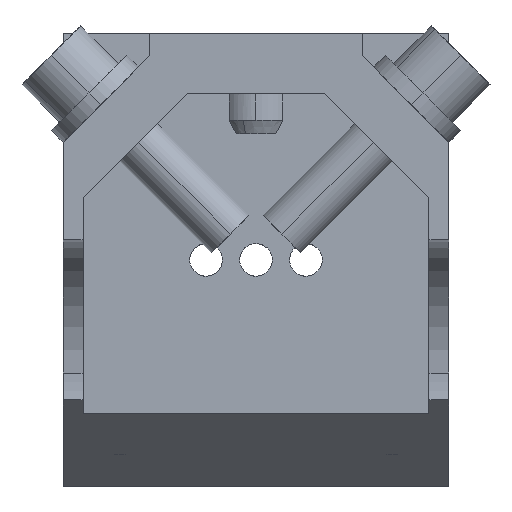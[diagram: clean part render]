
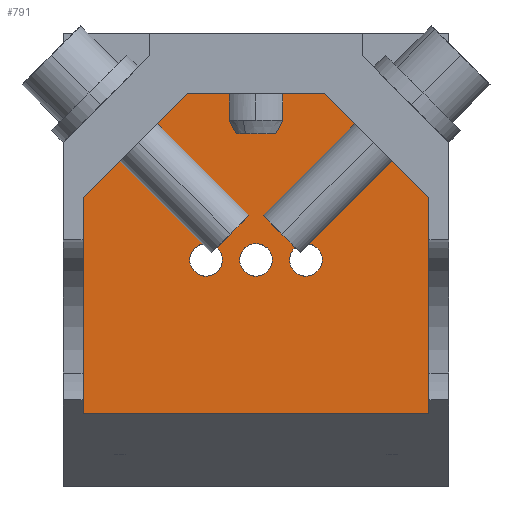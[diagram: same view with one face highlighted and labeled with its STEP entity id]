
A CAD part, left-side view. The second image highlights one B-rep face of the part: STEP entity #791.
In plain terms, the highlighted planar face has unit normal (-1, 0, 0).
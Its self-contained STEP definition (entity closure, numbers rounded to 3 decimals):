
#791=ADVANCED_FACE('Pocket.1',(#1907,#1908,#1909,#1910),#1911,.T.);
#1907=FACE_OUTER_BOUND('',#3453,.T.);
#1908=FACE_BOUND('',#3454,.T.);
#1909=FACE_BOUND('',#3455,.T.);
#1910=FACE_BOUND('',#3456,.T.);
#1911=PLANE('',#3457);
#3453=EDGE_LOOP('',(#5425,#5426,#5427,#5428,#5429,#5430));
#3454=EDGE_LOOP('',(#5431,#5432,#5433,#5434));
#3455=EDGE_LOOP('',(#5435,#5436,#5437,#5438));
#3456=EDGE_LOOP('',(#5439,#5440,#5441,#5442));
#3457=AXIS2_PLACEMENT_3D('',#5443,#5444,#5445);
#5425=ORIENTED_EDGE('',*,*,#9299,.T.);
#5426=ORIENTED_EDGE('',*,*,#9300,.T.);
#5427=ORIENTED_EDGE('',*,*,#9301,.T.);
#5428=ORIENTED_EDGE('',*,*,#9302,.T.);
#5429=ORIENTED_EDGE('',*,*,#9267,.T.);
#5430=ORIENTED_EDGE('',*,*,#9293,.T.);
#5431=ORIENTED_EDGE('',*,*,#8889,.F.);
#5432=ORIENTED_EDGE('',*,*,#8892,.F.);
#5433=ORIENTED_EDGE('',*,*,#9303,.F.);
#5434=ORIENTED_EDGE('',*,*,#9304,.F.);
#5435=ORIENTED_EDGE('',*,*,#9064,.F.);
#5436=ORIENTED_EDGE('',*,*,#9067,.F.);
#5437=ORIENTED_EDGE('',*,*,#9305,.F.);
#5438=ORIENTED_EDGE('',*,*,#9306,.F.);
#5439=ORIENTED_EDGE('',*,*,#9307,.F.);
#5440=ORIENTED_EDGE('',*,*,#9308,.F.);
#5441=ORIENTED_EDGE('',*,*,#9026,.F.);
#5442=ORIENTED_EDGE('',*,*,#9018,.F.);
#5443=CARTESIAN_POINT('',(18.0,0.0,0.0));
#5444=DIRECTION('',(-1.0,0.0,0.0));
#5445=DIRECTION('',(0.0,-1.0,0.0));
#8889=EDGE_CURVE('',#10553,#10547,#10555,.T.);
#8892=EDGE_CURVE('',#10557,#10553,#10560,.T.);
#9018=EDGE_CURVE('',#10748,#10751,#10752,.T.);
#9026=EDGE_CURVE('',#10751,#10760,#10765,.T.);
#9064=EDGE_CURVE('',#10822,#10816,#10824,.T.);
#9067=EDGE_CURVE('',#10826,#10822,#10829,.T.);
#9267=EDGE_CURVE('',#11134,#11139,#11141,.F.);
#9293=EDGE_CURVE('',#11139,#11179,#11181,.F.);
#9299=EDGE_CURVE('',#11179,#11189,#11190,.F.);
#9300=EDGE_CURVE('',#11189,#11191,#11192,.T.);
#9301=EDGE_CURVE('',#11191,#11193,#11194,.T.);
#9302=EDGE_CURVE('',#11193,#11134,#11195,.F.);
#9303=EDGE_CURVE('',#11196,#10557,#11197,.T.);
#9304=EDGE_CURVE('',#10547,#11196,#11198,.T.);
#9305=EDGE_CURVE('',#11199,#10826,#11200,.T.);
#9306=EDGE_CURVE('',#10816,#11199,#11201,.T.);
#9307=EDGE_CURVE('',#11202,#10748,#11203,.T.);
#9308=EDGE_CURVE('',#10760,#11202,#11204,.T.);
#10547=VERTEX_POINT('',#12959);
#10553=VERTEX_POINT('',#13000);
#10555=CIRCLE('',#13003,2.459);
#10557=VERTEX_POINT('',#13005);
#10560=CIRCLE('',#13009,2.459);
#10748=VERTEX_POINT('',#13446);
#10751=VERTEX_POINT('',#13450);
#10752=CIRCLE('',#13451,2.459);
#10760=VERTEX_POINT('',#13494);
#10765=CIRCLE('',#13534,2.459);
#10816=VERTEX_POINT('',#13665);
#10822=VERTEX_POINT('',#13706);
#10824=CIRCLE('',#13709,2.459);
#10826=VERTEX_POINT('',#13711);
#10829=CIRCLE('',#13715,2.459);
#11134=VERTEX_POINT('',#14598);
#11139=VERTEX_POINT('',#14605);
#11141=LINE('',#14608,#14609);
#11179=VERTEX_POINT('',#14662);
#11181=LINE('',#14665,#14666);
#11189=VERTEX_POINT('',#14674);
#11190=LINE('',#14675,#14676);
#11191=VERTEX_POINT('',#14677);
#11192=LINE('',#14678,#14679);
#11193=VERTEX_POINT('',#14680);
#11194=LINE('',#14681,#14682);
#11195=LINE('',#14683,#14684);
#11196=VERTEX_POINT('',#14685);
#11197=CIRCLE('',#14686,2.459);
#11198=CIRCLE('',#14687,2.459);
#11199=VERTEX_POINT('',#14688);
#11200=CIRCLE('',#14689,2.459);
#11201=CIRCLE('',#14690,2.459);
#11202=VERTEX_POINT('',#14691);
#11203=CIRCLE('',#14692,2.459);
#11204=CIRCLE('',#14693,2.459);
#12959=CARTESIAN_POINT('',(18.0,2.459,0.));
#13000=CARTESIAN_POINT('',(18.0,-2.158,1.179));
#13003=AXIS2_PLACEMENT_3D('',#17386,#17387,#17388);
#13005=CARTESIAN_POINT('',(18.0,-2.458,0.));
#13009=AXIS2_PLACEMENT_3D('',#17390,#17391,#17392);
#13446=CARTESIAN_POINT('',(18.0,-9.958,0.));
#13450=CARTESIAN_POINT('',(18.0,-9.658,1.179));
#13451=AXIS2_PLACEMENT_3D('',#17547,#17548,#17549);
#13494=CARTESIAN_POINT('',(18.0,-5.041,0.));
#13534=AXIS2_PLACEMENT_3D('',#17552,#17553,#17554);
#13665=CARTESIAN_POINT('',(18.0,9.959,0.));
#13706=CARTESIAN_POINT('',(18.0,5.342,1.179));
#13709=AXIS2_PLACEMENT_3D('',#17593,#17594,#17595);
#13711=CARTESIAN_POINT('',(18.0,5.042,0.));
#13715=AXIS2_PLACEMENT_3D('',#17597,#17598,#17599);
#14598=CARTESIAN_POINT('',(18.0,-10.355,25.0));
#14605=CARTESIAN_POINT('',(18.0,10.355,25.0));
#14608=CARTESIAN_POINT('',(18.0,0.,25.0));
#14609=VECTOR('',#17839,1.0);
#14662=CARTESIAN_POINT('',(18.0,26.0,9.355));
#14665=CARTESIAN_POINT('',(18.0,18.178,17.178));
#14666=VECTOR('',#17868,1.0);
#14674=CARTESIAN_POINT('',(18.0,26.0,-23.059));
#14675=CARTESIAN_POINT('',(18.0,26.0,-6.852));
#14676=VECTOR('',#17881,1.0);
#14677=CARTESIAN_POINT('',(18.0,-26.,-23.059));
#14678=CARTESIAN_POINT('',(18.0,0.,-23.059));
#14679=VECTOR('',#17882,1.0);
#14680=CARTESIAN_POINT('',(18.0,-26.,9.355));
#14681=CARTESIAN_POINT('',(18.0,-26.,-6.852));
#14682=VECTOR('',#17883,1.0);
#14683=CARTESIAN_POINT('',(18.0,-18.178,17.178));
#14684=VECTOR('',#17884,1.0);
#14685=CARTESIAN_POINT('',(18.0,2.158,-1.179));
#14686=AXIS2_PLACEMENT_3D('',#17885,#17886,#17887);
#14687=AXIS2_PLACEMENT_3D('',#17888,#17889,#17890);
#14688=CARTESIAN_POINT('',(18.0,9.658,-1.179));
#14689=AXIS2_PLACEMENT_3D('',#17891,#17892,#17893);
#14690=AXIS2_PLACEMENT_3D('',#17894,#17895,#17896);
#14691=CARTESIAN_POINT('',(18.0,-5.342,-1.179));
#14692=AXIS2_PLACEMENT_3D('',#17897,#17898,#17899);
#14693=AXIS2_PLACEMENT_3D('',#17900,#17901,#17902);
#17386=CARTESIAN_POINT('',(18.0,0.,0.));
#17387=DIRECTION('',(-1.0,0.0,0.0));
#17388=DIRECTION('',(0.0,-1.0,0.0));
#17390=CARTESIAN_POINT('',(18.0,0.,0.));
#17391=DIRECTION('',(-1.0,0.0,0.0));
#17392=DIRECTION('',(0.0,-1.0,0.0));
#17547=CARTESIAN_POINT('',(18.0,-7.5,0.));
#17548=DIRECTION('',(-1.0,0.0,0.0));
#17549=DIRECTION('',(0.0,-1.0,0.0));
#17552=CARTESIAN_POINT('',(18.0,-7.5,0.));
#17553=DIRECTION('',(-1.0,0.0,0.0));
#17554=DIRECTION('',(0.0,-1.0,0.0));
#17593=CARTESIAN_POINT('',(18.0,7.5,0.));
#17594=DIRECTION('',(-1.0,0.0,0.0));
#17595=DIRECTION('',(0.0,-1.0,0.0));
#17597=CARTESIAN_POINT('',(18.0,7.5,0.));
#17598=DIRECTION('',(-1.0,0.0,0.0));
#17599=DIRECTION('',(0.0,-1.0,0.0));
#17839=DIRECTION('',(0.0,-1.0,0.0));
#17868=DIRECTION('',(0.0,-0.707,0.707));
#17881=DIRECTION('',(0.0,0.0,1.0));
#17882=DIRECTION('',(0.0,-1.0,0.0));
#17883=DIRECTION('',(0.0,0.0,1.0));
#17884=DIRECTION('',(0.0,-0.707,-0.707));
#17885=CARTESIAN_POINT('',(18.0,0.,0.));
#17886=DIRECTION('',(-1.0,0.0,0.0));
#17887=DIRECTION('',(0.0,-1.0,0.0));
#17888=CARTESIAN_POINT('',(18.0,0.,0.));
#17889=DIRECTION('',(-1.0,0.0,0.0));
#17890=DIRECTION('',(0.0,-1.0,0.0));
#17891=CARTESIAN_POINT('',(18.0,7.5,0.));
#17892=DIRECTION('',(-1.0,0.0,0.0));
#17893=DIRECTION('',(0.0,-1.0,0.0));
#17894=CARTESIAN_POINT('',(18.0,7.5,0.));
#17895=DIRECTION('',(-1.0,0.0,0.0));
#17896=DIRECTION('',(0.0,-1.0,0.0));
#17897=CARTESIAN_POINT('',(18.0,-7.5,0.));
#17898=DIRECTION('',(-1.0,0.0,0.0));
#17899=DIRECTION('',(0.0,-1.0,0.0));
#17900=CARTESIAN_POINT('',(18.0,-7.5,0.));
#17901=DIRECTION('',(-1.0,0.0,0.0));
#17902=DIRECTION('',(0.0,-1.0,0.0));
